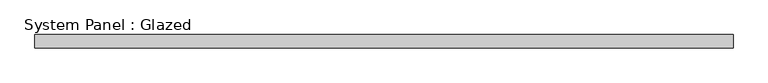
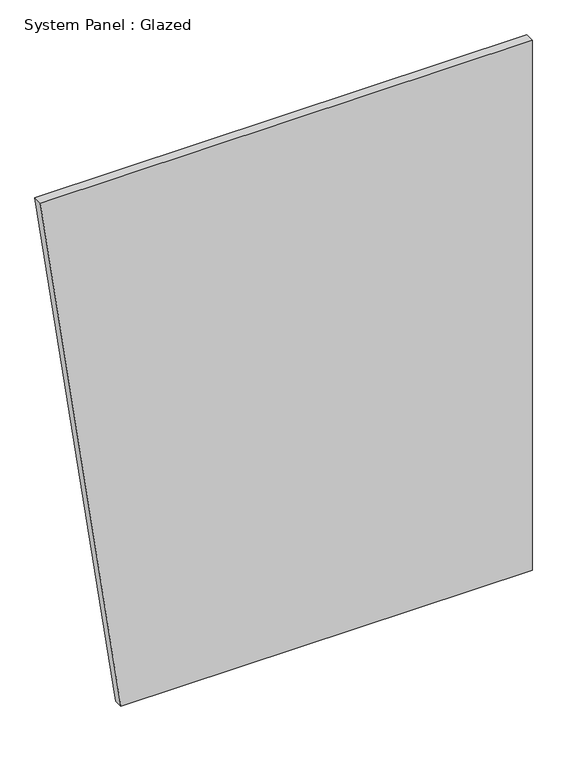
"""IFC4 building model written with IfcOpenShell, lengths in millimetres: plate geometry, System Panel : Glazed."""

from ifc_helpers import new_model, si_unit, frame, origin, place, context, project, spatial, polyline, outline, extrude, source, transform, mapped, element, save


def system_panel_glazed_bc7fa1e3(model_context):
    return source(origin(), model_context, "Body", "SweptSolid", [
        extrude(outline(polyline([(0.0, -449.52518), (0.0, 668.8057555), (1524.0, 668.8057555), (1524.0, -668.8057555), (0.0, -449.52518)])), frame((0.0, 19.05, 0.0), z_axis=(0.0, 1.0, 0.0), x_axis=(0.0, 0.0, 1.0)), (0.0, 0.0, 1.0), 25.4),
    ])


if __name__ == "__main__":
    model = new_model("IFC4")
    model_context = context("Model", 3, world=origin())
    ifc_project = project(units=[si_unit("LENGTHUNIT", "METRE", prefix="MILLI")], contexts=[model_context])
    site = spatial("IfcSite", under=ifc_project)
    building = spatial("IfcBuilding", under=site)
    placement = place(None, origin())
    system_panel_glazed_shape = system_panel_glazed_bc7fa1e3(model_context)
    element("IfcPlate", 1, ObjectType="System Panel : Glazed", at=placement, inside=building, context=model_context, shape_type="MappedRepresentation", body=[
        mapped(system_panel_glazed_shape, transform((0.0, 0.0, 0.0), x_axis=(1.0, 0.0, 0.0), y_axis=(0.0, 1.0, 0.0), z_axis=(0.0, 0.0, 1.0))),
    ])
    save(model, "model.ifc")
